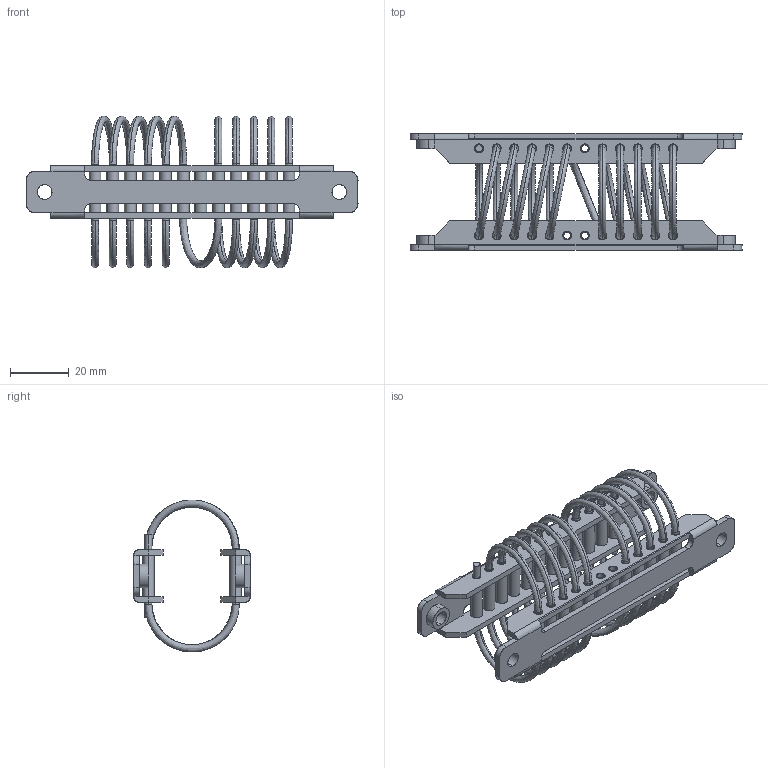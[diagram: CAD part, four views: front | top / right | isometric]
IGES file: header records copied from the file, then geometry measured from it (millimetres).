
Start section: SolidWorks IGES file using analytic representation for surfaces
Bounding box: 113 x 39.7 x 51.7 mm (x, y, z)
Surface area: 28187.8 mm2 (no closed solid volume)
Topology: 0 solids, 0 shells, 287 faces, 8298 edges, 8298 vertices
Faces by surface type: bspline 155, revolution 132
